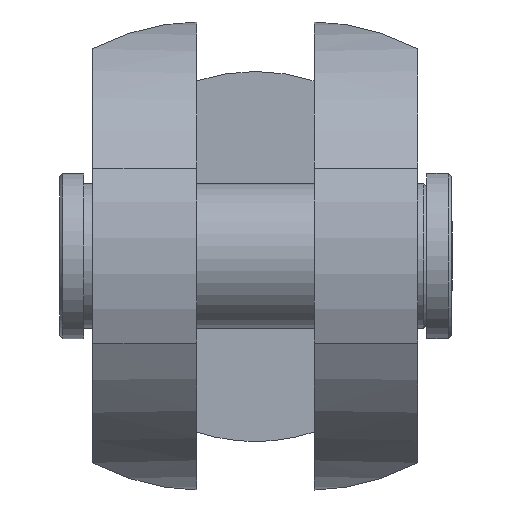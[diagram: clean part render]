
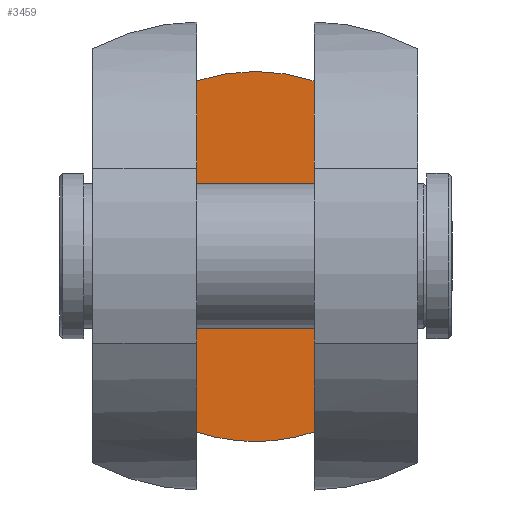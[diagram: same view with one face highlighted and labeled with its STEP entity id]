
A CAD part, top view. The second image highlights one B-rep face of the part: STEP entity #3459.
In plain terms, the highlighted planar face has unit normal (0, 0, 1).
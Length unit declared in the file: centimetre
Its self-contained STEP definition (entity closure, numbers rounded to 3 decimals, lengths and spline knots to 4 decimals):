
#388=LINE('',#5621,#736);
#389=LINE('',#5623,#737);
#736=VECTOR('',#4343,11.6577);
#737=VECTOR('',#4346,11.6577);
#869=PLANE('',#3649);
#1138=FACE_OUTER_BOUND('',#1344,.T.);
#1344=EDGE_LOOP('',(#3012,#3013,#3014,#3015));
#1406=CIRCLE('',#3504,6.1464);
#1407=CIRCLE('',#3505,6.1464);
#1453=VERTEX_POINT('',#4500);
#1454=VERTEX_POINT('',#4504);
#1459=VERTEX_POINT('',#4536);
#1460=VERTEX_POINT('',#4540);
#1763=EDGE_CURVE('',#1453,#1454,#1406,.T.);
#1769=EDGE_CURVE('',#1459,#1460,#1407,.T.);
#2164=EDGE_CURVE('',#1460,#1453,#388,.T.);
#2165=EDGE_CURVE('',#1459,#1454,#389,.T.);
#3012=ORIENTED_EDGE('',*,*,#1769,.F.);
#3013=ORIENTED_EDGE('',*,*,#2165,.T.);
#3014=ORIENTED_EDGE('',*,*,#1763,.F.);
#3015=ORIENTED_EDGE('',*,*,#2164,.F.);
#3459=ADVANCED_FACE('',(#1138),#869,.F.);
#3504=AXIS2_PLACEMENT_3D('',#4505,#3719,#3720);
#3505=AXIS2_PLACEMENT_3D('',#4541,#3721,#3722);
#3649=AXIS2_PLACEMENT_3D('',#5622,#4344,#4345);
#3719=DIRECTION('center_axis',(0.,0.,
-1.));
#3720=DIRECTION('ref_axis',(0.,-1.,0.));
#3721=DIRECTION('center_axis',(0.,0.,
-1.));
#3722=DIRECTION('ref_axis',(0.,-1.,0.));
#4343=DIRECTION('',(0.,1.,0.));
#4344=DIRECTION('center_axis',(0.,0.,
-1.));
#4345=DIRECTION('ref_axis',(-1.,0.,0.));
#4346=DIRECTION('',(0.,1.,0.));
#4500=CARTESIAN_POINT('',(-1.95,5.8289,-9.6));
#4504=CARTESIAN_POINT('',(1.95,5.8289,-9.6));
#4505=CARTESIAN_POINT('Origin',(0.,0.,
-9.6));
#4536=CARTESIAN_POINT('',(1.95,-5.8289,-9.6));
#4540=CARTESIAN_POINT('',(-1.95,-5.8289,-9.6));
#4541=CARTESIAN_POINT('Origin',(0.,0.,
-9.6));
#5621=CARTESIAN_POINT('',(-1.95,0.,-9.6));
#5622=CARTESIAN_POINT('Origin',(1.95,0.,
-9.6));
#5623=CARTESIAN_POINT('',(1.95,0.,-9.6));
